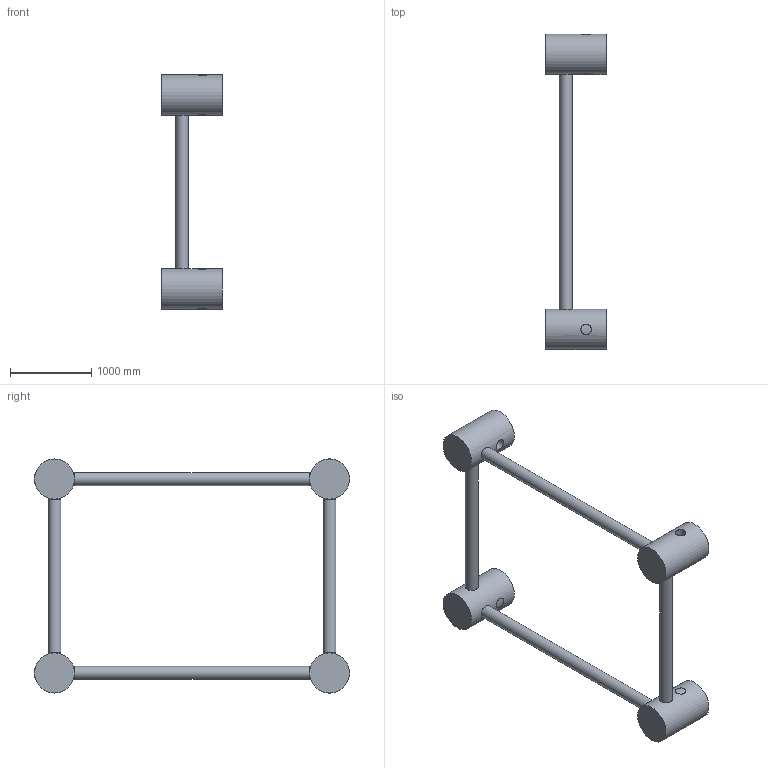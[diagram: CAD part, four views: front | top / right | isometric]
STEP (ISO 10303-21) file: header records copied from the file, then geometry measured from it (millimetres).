
FILE_DESCRIPTION(/* description */ (''),/* implementation_level */ '2;1');
FILE_NAME(/* name */ 'C:\Users\Stephan\Desktop\BOX-40R-ATT_111130055.stp',/* time_stamp */ '2018-08-15T12:44:43+02:00',/* author */ ('Stephan'),/* organization */ (''),/* preprocessor_version */ 'ST-DEVELOPER v16.13',/* originating_system */ 'AutoCAD Mechanical',/* authorisation */ '');
FILE_SCHEMA (('AUTOMOTIVE_DESIGN { 1 0 10303 214 3 1 1 }'));
Length unit declared in the file: centimetre
Products named in the file (1): Product
Bounding box: 750 x 3885 x 2885 mm (x, y, z)
Volume: 743701347 mm3; surface area: 11924482.4 mm2
Topology: 8 solids, 8 shells, 38 faces, 64 edges, 40 vertices
Faces by surface type: plane 24, cylinder 14
Full cylindrical faces by diameter (mm): 130.481 x4, 160 x4, 495 x4
Entity records: 1423 total; most frequent: CARTESIAN_POINT 749, DIRECTION 130, ORIENTED_EDGE 112, EDGE_LOOP 64, AXIS2_PLACEMENT_3D 61, EDGE_CURVE 48, VERTEX_POINT 40, FACE_OUTER_BOUND 36
